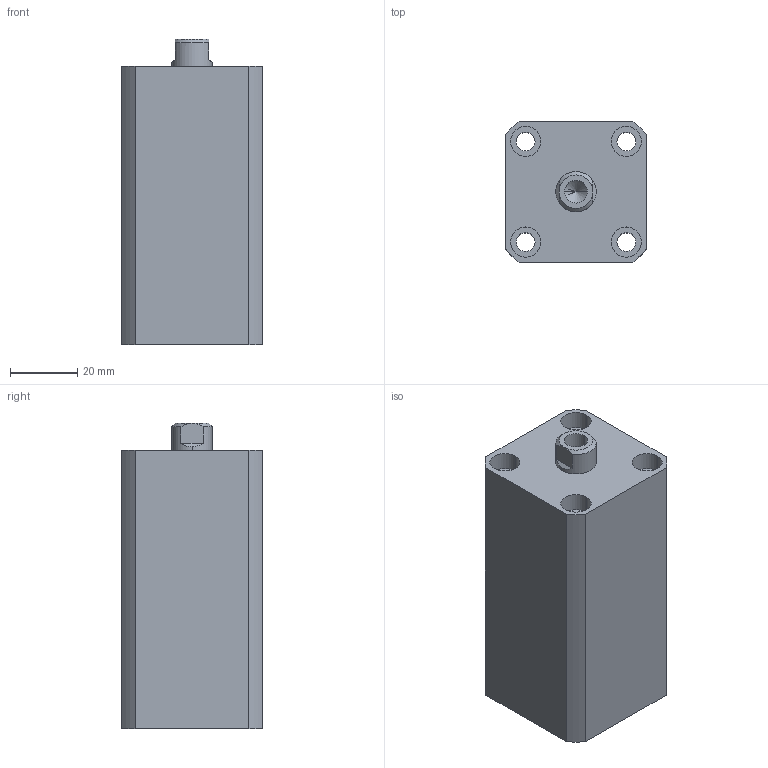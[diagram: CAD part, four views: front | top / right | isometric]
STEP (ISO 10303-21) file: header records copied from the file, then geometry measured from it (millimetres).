
FILE_DESCRIPTION (( 'STEP AP203' ), '1' );
FILE_NAME ('HTB-SDMB20-40N.STEP', '2019-10-08T11:56:35', ( '微软用户' ), ( '微软中国' ), 'SwSTEP 2.0', 'SolidWorks 2012', '' );
FILE_SCHEMA (( 'CONFIG_CONTROL_DESIGN' ));
Length unit declared in the file: millimetre
Products named in the file (3): HTB-SDMB20-40N活塞杆; HTB-SDMB20-40N; HTB-SDMB20-40掛极
Assembly tree (2 placements, depth 2):
  HTB-SDMB20-40N
    HTB-SDMB20-40掛极
    HTB-SDMB20-40N活塞杆
Bounding box: 42 x 42 x 91 mm (x, y, z)
Volume: 125997.2 mm3; surface area: 31947.1 mm2
Topology: 2 solids, 2 shells, 136 faces, 326 edges, 213 vertices
Faces by surface type: plane 64, cylinder 46, bspline 16, torus 6, cone 4
Entity records: 5023 total; most frequent: CARTESIAN_POINT 1570, ORIENTED_EDGE 648, DIRECTION 640, EDGE_CURVE 324, AXIS2_PLACEMENT_3D 231, VERTEX_POINT 213, VECTOR 178, LINE 178
